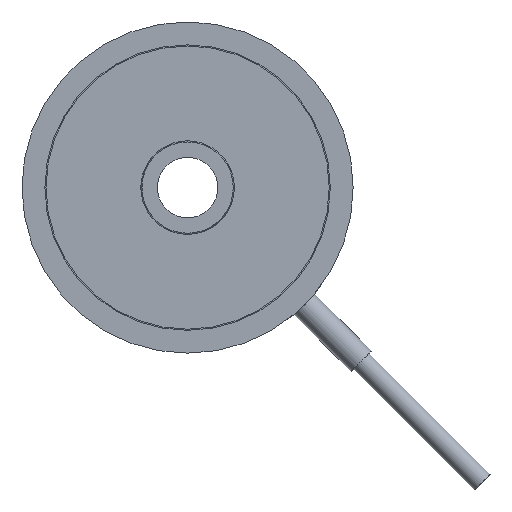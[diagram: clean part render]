
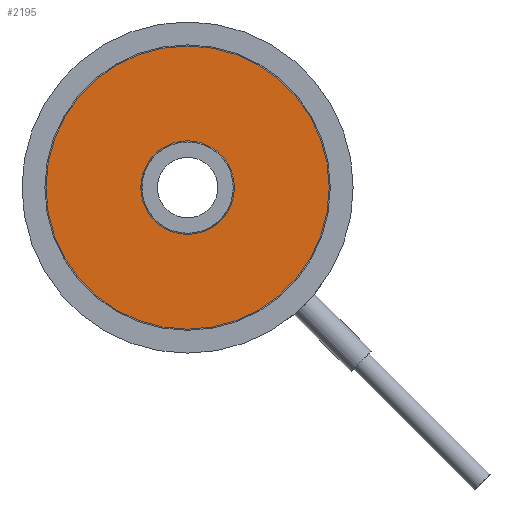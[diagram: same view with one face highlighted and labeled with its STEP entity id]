
A CAD part, front view. The second image highlights one B-rep face of the part: STEP entity #2195.
In plain terms, the highlighted planar face has unit normal (0, -1, 0).
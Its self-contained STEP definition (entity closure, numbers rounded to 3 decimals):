
#46 = CARTESIAN_POINT ( 'NONE',  ( 0., 0., 0. ) ) ;
#113 = DIRECTION ( 'NONE',  ( 0., 1., 0. ) ) ;
#164 = ORIENTED_EDGE ( 'NONE', *, *, #195, .F. ) ;
#173 = CARTESIAN_POINT ( 'NONE',  ( 0., 0., 12.4 ) ) ;
#189 = EDGE_LOOP ( 'NONE', ( #1061, #164 ) ) ;
#195 = EDGE_CURVE ( 'NONE', #658, #993, #497, .T. ) ;
#235 = PLANE ( 'NONE',  #1091 ) ;
#243 = DIRECTION ( 'NONE',  ( 0., 1., 0. ) ) ;
#399 = AXIS2_PLACEMENT_3D ( 'NONE', #528, #1515, #1184 ) ;
#423 = DIRECTION ( 'NONE',  ( 0., 0., 1. ) ) ;
#425 = DIRECTION ( 'NONE',  ( 0., 0., 1. ) ) ;
#497 = CIRCLE ( 'NONE', #1079, 12.4 ) ;
#528 = CARTESIAN_POINT ( 'NONE',  ( 0., 0., 0. ) ) ;
#638 = EDGE_LOOP ( 'NONE', ( #1698, #1157 ) ) ;
#658 = VERTEX_POINT ( 'NONE', #173 ) ;
#873 = CIRCLE ( 'NONE', #1003, 12.4 ) ;
#877 = EDGE_CURVE ( 'NONE', #1236, #930, #1583, .T. ) ;
#892 = CARTESIAN_POINT ( 'NONE',  ( 0., 0., 4.1 ) ) ;
#930 = VERTEX_POINT ( 'NONE', #974 ) ;
#974 = CARTESIAN_POINT ( 'NONE',  ( 0., 0., -4.1 ) ) ;
#993 = VERTEX_POINT ( 'NONE', #1858 ) ;
#1003 = AXIS2_PLACEMENT_3D ( 'NONE', #1240, #243, #1068 ) ;
#1006 = CIRCLE ( 'NONE', #399, 4.1 ) ;
#1024 = FACE_OUTER_BOUND ( 'NONE', #189, .T. ) ;
#1061 = ORIENTED_EDGE ( 'NONE', *, *, #2128, .F. ) ;
#1068 = DIRECTION ( 'NONE',  ( 0., 0., 1. ) ) ;
#1079 = AXIS2_PLACEMENT_3D ( 'NONE', #1614, #1428, #423 ) ;
#1091 = AXIS2_PLACEMENT_3D ( 'NONE', #46, #1952, #425 ) ;
#1157 = ORIENTED_EDGE ( 'NONE', *, *, #877, .T. ) ;
#1184 = DIRECTION ( 'NONE',  ( 0., 0., 1. ) ) ;
#1236 = VERTEX_POINT ( 'NONE', #892 ) ;
#1240 = CARTESIAN_POINT ( 'NONE',  ( 0., 0., 0. ) ) ;
#1428 = DIRECTION ( 'NONE',  ( 0., 1., 0. ) ) ;
#1515 = DIRECTION ( 'NONE',  ( 0., 1., 0. ) ) ;
#1583 = CIRCLE ( 'NONE', #2054, 4.1 ) ;
#1614 = CARTESIAN_POINT ( 'NONE',  ( 0., 0., 0. ) ) ;
#1656 = DIRECTION ( 'NONE',  ( 0., 0., 1. ) ) ;
#1657 = FACE_BOUND ( 'NONE', #638, .T. ) ;
#1687 = EDGE_CURVE ( 'NONE', #930, #1236, #1006, .T. ) ;
#1698 = ORIENTED_EDGE ( 'NONE', *, *, #1687, .T. ) ;
#1833 = CARTESIAN_POINT ( 'NONE',  ( 0., 0., 0. ) ) ;
#1858 = CARTESIAN_POINT ( 'NONE',  ( 0., 0., -12.4 ) ) ;
#1952 = DIRECTION ( 'NONE',  ( 0., 1., 0. ) ) ;
#2054 = AXIS2_PLACEMENT_3D ( 'NONE', #1833, #113, #1656 ) ;
#2128 = EDGE_CURVE ( 'NONE', #993, #658, #873, .T. ) ;
#2195 = ADVANCED_FACE ( 'NONE', ( #1024, #1657 ), #235, .F. ) ;
